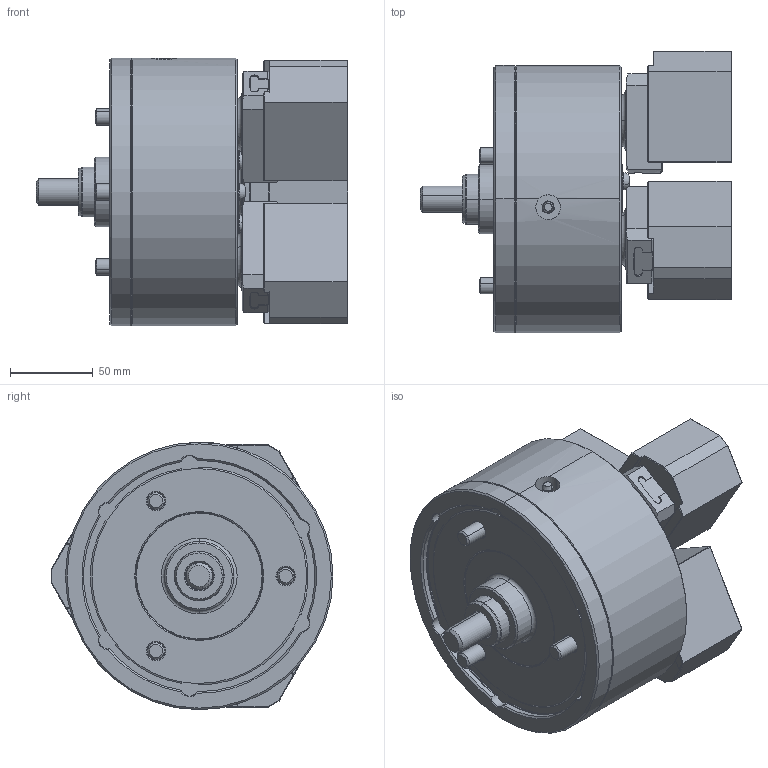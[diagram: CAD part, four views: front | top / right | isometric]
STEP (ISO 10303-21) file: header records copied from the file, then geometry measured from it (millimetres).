
FILE_DESCRIPTION (( 'STEP AP214' ), '1' );
FILE_NAME ('PW06_CL_ID.STEP', '2019-10-03T01:46:59', ( '' ), ( '' ), 'SwSTEP 2.0', 'SolidWorks 2017', '' );
FILE_SCHEMA (( 'AUTOMOTIVE_DESIGN' ));
Length unit declared in the file: millimetre
Products named in the file (5): 結合_ID; 0030110016; 61P422013; 61P324975; PW06_CL_ID
Assembly tree (13 placements, depth 2):
  PW06_CL_ID
    61P324975  x3
    61P422013  x3
    0030110016  x6
    結合_ID
Bounding box: 188.69 x 170.73 x 162 mm (x, y, z)
Volume: 2043943 mm3; surface area: 229369.8 mm2
Topology: 13 solids, 14 shells, 1741 faces, 4270 edges, 2668 vertices
Faces by surface type: plane 848, cone 315, cylinder 276, bspline 241, torus 61
Entity records: 52825 total; most frequent: CARTESIAN_POINT 20147, ORIENTED_EDGE 7160, DIRECTION 5920, EDGE_CURVE 3580, VERTEX_POINT 2273, AXIS2_PLACEMENT_3D 1999, LINE 1922, VECTOR 1922
